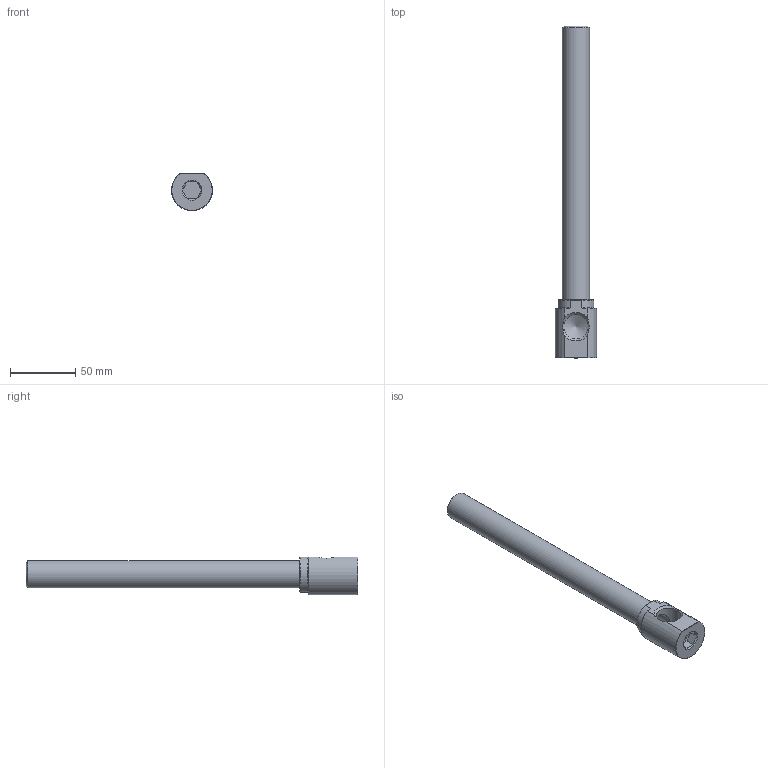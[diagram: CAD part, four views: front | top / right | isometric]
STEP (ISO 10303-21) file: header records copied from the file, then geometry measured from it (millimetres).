
FILE_DESCRIPTION(/* description */ (''),/* implementation_level */ '2;1');
FILE_NAME(/* name */ 'C:/Users/drich/Desktop/EKL50 X 10 v3.step',/* time_stamp */ '2019-11-18T14:44:05-06:00',/* author */ (''),/* organization */ (''),/* preprocessor_version */ 'ST-DEVELOPER v18',/* originating_system */ 'Autodesk Translation Framework v8.12.0.6',/* authorisation */ '');
FILE_SCHEMA (('AUTOMOTIVE_DESIGN { 1 0 10303 214 3 1 1 }'));
Length unit declared in the file: inch
Products named in the file (2): EKL50 X 10; EKL50 X 10_1
Assembly tree (1 placements, depth 2):
  EKL50 X 10
    EKL50 X 10_1
Bounding box: 31.46 x 254 x 28.75 mm (x, y, z)
Volume: 60157.8 mm3; surface area: 30658.2 mm2
Topology: 1 solids, 1 shells, 32 faces, 81 edges, 53 vertices
Faces by surface type: plane 16, cone 10, cylinder 6
Full cylindrical faces by diameter (mm): 14.275 x1, 14.986 x1, 18.901 x1, 20.813 x1
Entity records: 1072 total; most frequent: CARTESIAN_POINT 263, ORIENTED_EDGE 160, DIRECTION 156, EDGE_CURVE 80, AXIS2_PLACEMENT_3D 61, VERTEX_POINT 53, EDGE_LOOP 37, LINE 34
